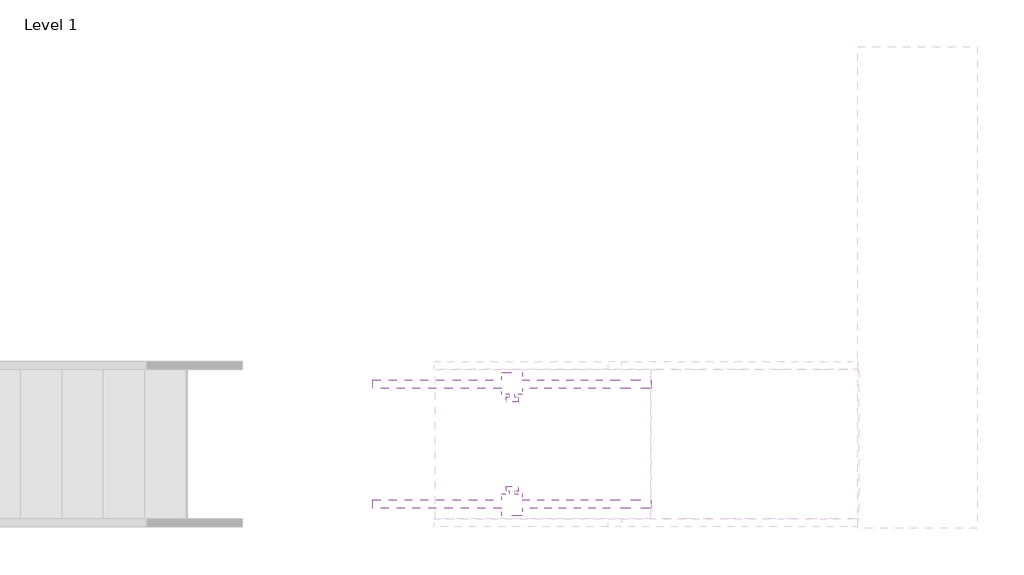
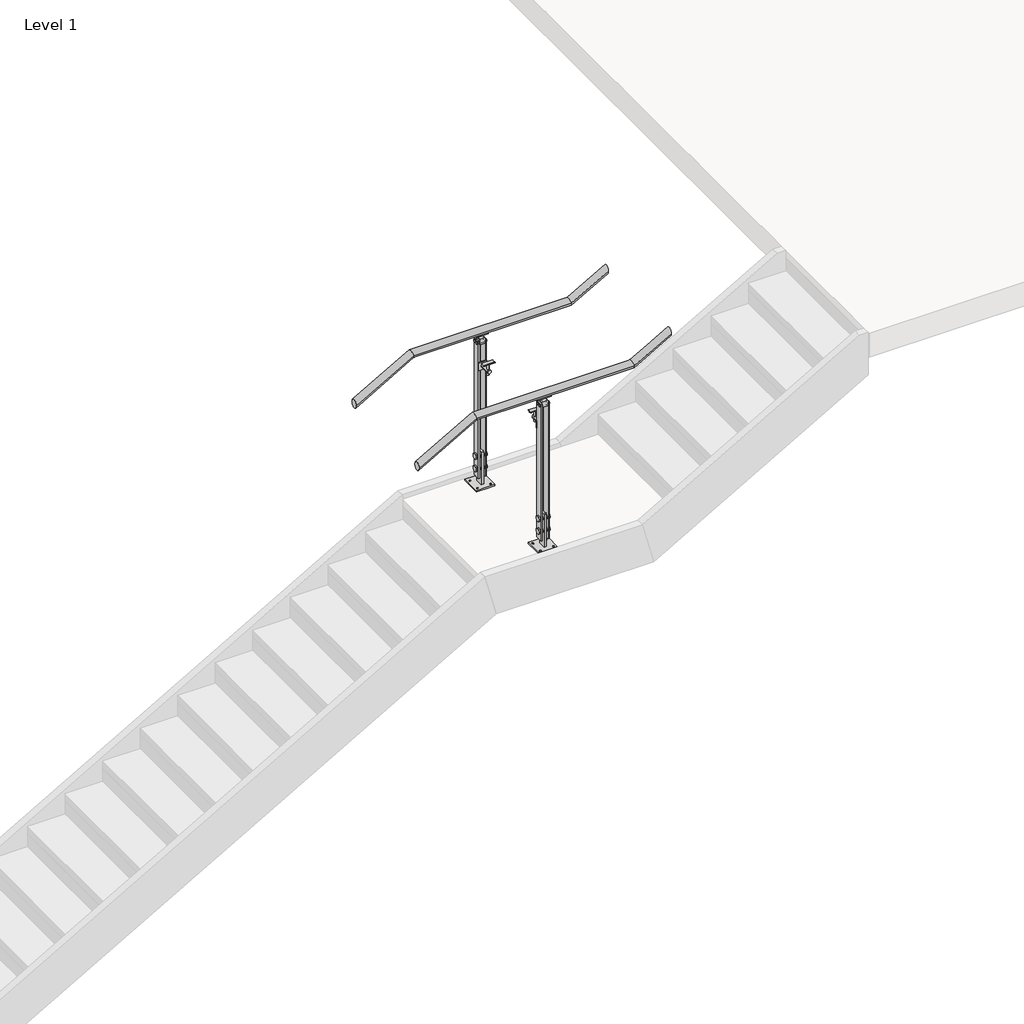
# One storey, part 26 of 36: 2 railings.
"""IFC4 building model written with IfcOpenShell, lengths in millimetres."""

from ifc_helpers import new_model, si_unit, point, frame, frame_2d, origin, place, context, project, spatial, polyline, circle_curve, ellipse_curve, trimmed, segment, composite_curve, outline, extrude, element, save
from ifc_brep_helpers import plane_surface, cylinder_surface, revolved_surface, advanced_brep

model = new_model("IFC4")

# Units and contexts
model_context = context("Model", 3, world=origin())
ifc_project = project(units=[si_unit("LENGTHUNIT", "METRE", prefix="MILLI")], contexts=[model_context])

# Site, building, storey
site = spatial("IfcSite", under=ifc_project)
building = spatial("IfcBuilding", under=site)
storey = spatial("IfcBuildingStorey", under=building, Name="Level 1", Elevation=0.0)

# Railings
placement = place(None, origin())
element("IfcRailing", 1, ObjectType="VIVA-BLADE-Perforated-Floor Mount-Stair-Landing", at=placement, inside=storey, context=model_context, shape_type="SolidModel", body=[
    advanced_brep(
    [(136575.2474271, -2328.4711813, 3047.7740933), (136575.2474271, -2277.6711813, 3047.7740933), (136962.9927638, -2328.4711813, 3269.3428571), (136962.9927638, -2277.6711813, 3269.3428571), (138029.7927638, -2328.4711813, 3269.3428571), (138029.7927638, -2277.6711813, 3269.3428571), (138280.2224271, -2328.4711813, 3412.4455219), (138280.2224271, -2277.6711813, 3412.4455219)],
    [
        (0, 1, ellipse_curve(frame((136575.2474271, -2303.0711813, 3047.7740933), z_axis=(-1.0, 0.0, 0.0), x_axis=(0.0, 0.0, -0.9999999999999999)), 29.2544781, 25.4)),
        (1, 0, ellipse_curve(frame((136575.2474271, -2303.0711813, 3047.7740933), z_axis=(-1.0, 0.0, 0.0), x_axis=(0.0, 0.0, -0.9999999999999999)), 29.2544781, 25.4)),
        (0, 2),
        (2, 3, ellipse_curve(frame((136962.9927638, -2303.0711813, 3269.3428571), z_axis=(-0.9664996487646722, 0.0, -0.2566679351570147), x_axis=(0.25666793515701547, 0.0, -0.9664996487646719)), 26.2804027, 25.4)),
        (3, 1),
        (3, 2, ellipse_curve(frame((136962.9927638, -2303.0711813, 3269.3428571), z_axis=(-0.9664996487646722, 0.0, -0.2566679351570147), x_axis=(0.25666793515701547, 0.0, -0.9664996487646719)), 26.2804027, 25.4)),
        (2, 4),
        (4, 5, ellipse_curve(frame((138029.7927638, -2303.0711813, 3269.3428571), z_axis=(-0.9664996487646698, 0.0, -0.2566679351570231), x_axis=(-0.2566679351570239, 0.0, 0.9664996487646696)), 26.2804027, 25.4)),
        (5, 3),
        (5, 4, ellipse_curve(frame((138029.7927638, -2303.0711813, 3269.3428571), z_axis=(-0.9664996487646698, 0.0, -0.2566679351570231), x_axis=(-0.2566679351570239, 0.0, 0.9664996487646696)), 26.2804027, 25.4)),
        (6, 7, ellipse_curve(frame((138280.2224271, -2303.0711813, 3412.4455219), z_axis=(1.0, 0.0, 0.0), x_axis=(0.0, 0.0, -1.0)), 29.2544781, 25.4)),
        (7, 6, ellipse_curve(frame((138280.2224271, -2303.0711813, 3412.4455219), z_axis=(1.0, 0.0, 0.0), x_axis=(0.0, 0.0, -1.0)), 29.2544781, 25.4)),
        (4, 6),
        (7, 5),
    ],
    [
        plane_surface(frame((136575.2474271, -2303.0711813, 3077.0285714), z_axis=(-1.0, 0.0, 0.0), x_axis=(0.0, 1.0, 0.0))),
        cylinder_surface(frame((136587.8493561, -2303.0711813, 3054.9751956), z_axis=(-0.868243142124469, 0.0, -0.49613893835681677), x_axis=(0.0, 1.0, 0.0)), 25.4),
        cylinder_surface(frame((136956.2474271, -2303.0711813, 3269.3428571), z_axis=(-1.0, 0.0, 0.0), x_axis=(0.0, 1.0, 0.0)), 25.4),
        plane_surface(frame((138280.2224271, -2303.0711813, 3441.7), z_axis=(1.0, 0.0, 0.0), x_axis=(0.0, 1.0, 0.0))),
        cylinder_surface(frame((138035.6493561, -2303.0711813, 3272.6894813), z_axis=(-0.8682431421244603, 0.0, -0.4961389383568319), x_axis=(0.0, 1.0, 0.0)), 25.4),
    ],
    [
        (0, [[1, 2]]),
        (1, [[-1, 3, 4, 5]]),
        (1, [[-2, -5, 6, -3]]),
        (2, [[-4, 7, 8, 9]]),
        (2, [[-6, -9, 10, -7]]),
        (3, [[11, 12]]),
        (4, [[-8, 13, -12, 14]]),
        (4, [[-10, -14, -11, -13]]),
    ],
),
    extrude(outline(composite_curve([segment(trimmed(circle_curve(frame_2d((0.0, 7.0)), 7.0), [point((0.0, 14.0))], [point((0.0, 0.0))], False, "CARTESIAN"), True, "CONTINUOUS"), segment(trimmed(circle_curve(frame_2d((0.0, 7.0)), 7.0), [point((0.0, 0.0))], [point((0.0, 14.0))], False, "CARTESIAN"), True, "CONTINUOUS")], self_intersect=False)), frame((137427.6506773, -2217.3875589, 3013.7229503), z_axis=(0.0012555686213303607, 0.0, 0.999999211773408), x_axis=(0.999999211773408, 0.0, -0.0012555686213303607)), (0.0, 0.0, 1.0), 75.97),
    extrude(outline(composite_curve([segment(trimmed(circle_curve(frame_2d((-2209.1396268, 3111.669086)), 19.05), [point((-2222.6692151, 3098.2581672))], [point((-2195.6100386, 3098.2581672))], True, "CARTESIAN"), True, "CONTINUOUS"), segment(polyline([(-2195.6100386, 3098.2581672), (-2194.583649, 3097.2407802)]), True, "CONTINUOUS"), segment(trimmed(circle_curve(frame_2d((-2195.6396268, 3096.1754583)), 1.5), [point((-2194.583649, 3097.2407802))], [point((-2194.6542254, 3095.0445366))], False, "CARTESIAN"), True, "CONTINUOUS"), segment(trimmed(circle_curve(frame_2d((-2209.1396268, 3111.669086)), 22.05), [point((-2194.6542254, 3095.0445366))], [point((-2223.6250283, 3095.0445366))], False, "CARTESIAN"), True, "CONTINUOUS"), segment(trimmed(circle_curve(frame_2d((-2222.6396268, 3096.1754583)), 1.5), [point((-2223.6250283, 3095.0445366))], [point((-2223.6956047, 3097.2407802))], False, "CARTESIAN"), True, "CONTINUOUS"), segment(polyline([(-2223.6956047, 3097.2407802), (-2222.6692151, 3098.2581672)]), True, "CONTINUOUS")], self_intersect=False)), frame((137391.2992925, 0.0, 0.0), z_axis=(1.0, 0.0, 0.0), x_axis=(0.0, 1.0, 0.0)), (0.0, 0.0, 1.0), 74.5229187),
    extrude(outline(composite_curve([segment(trimmed(circle_curve(frame_2d((3040.5995463, 137427.7105808)), 12.5), [point((3040.5995463, 137415.2105808))], [point((3040.5995463, 137440.2105808))], False, "CARTESIAN"), True, "CONTINUOUS"), segment(trimmed(circle_curve(frame_2d((3040.5995463, 137427.7105808)), 12.5), [point((3040.5995463, 137440.2105808))], [point((3040.5995463, 137415.2105808))], False, "CARTESIAN"), True, "CONTINUOUS")], self_intersect=False)), frame((0.0, -2277.6713846, 0.0), z_axis=(0.0, 1.0, 0.0), x_axis=(0.0, 0.0, 1.0)), (0.0, 0.0, 1.0), 82.061346),
    extrude(outline(polyline([(137454.8097628, -2271.3213846), (137454.8097628, -2277.6713846), (137400.6823628, -2277.6713846), (137400.6823628, -2271.3213846), (137454.8097628, -2271.3213846)])), frame((0.0, 0.0, 3013.6558249), z_axis=(0.0, 0.0, 1.0), x_axis=(1.0, 0.0, 0.0)), (0.0, 0.0, 1.0), 54.1734375),
    advanced_brep(
    [(137472.9723271, -2290.3110577, 3247.3396226), (137472.9723271, -2315.1831222, 3247.1963856), (137472.9723271, -2317.9920525, 3242.3696317), (137472.9723271, -2286.4751603, 3242.9503901), (137382.4975271, -2290.3110577, 3247.3396226), (137382.4975271, -2286.4751603, 3242.9503901), (137382.4975271, -2318.1058459, 3242.4322535), (137382.4975271, -2315.2700943, 3247.2447018)],
    [
        (0, 1, circle_curve(frame((137472.9723271, -2302.8748606, 3269.4544469), z_axis=(-1.0, 0.0, 0.0), x_axis=(0.0, 1.0, 0.0)), 25.4345159)),
        (1, 2, circle_curve(frame((137472.9723271, -2316.5147475, 3244.742217), z_axis=(1.0, 0.0, 0.0), x_axis=(0.0, 1.0, 0.0)), 2.7949225)),
        (2, 3, circle_curve(frame((137472.9723271, -2302.7413975, 3270.2170736), z_axis=(1.0, 0.0, 0.0), x_axis=(0.0, 1.0, 0.0)), 31.75)),
        (3, 0, circle_curve(frame((137472.9723271, -2288.7635, 3244.8213092), z_axis=(1.0, 0.0, 0.0), x_axis=(0.0, 1.0, 0.0)), 2.9558141)),
        (4, 5, circle_curve(frame((137382.4975271, -2288.7635, 3244.8213092), z_axis=(-1.0, 0.0, 0.0), x_axis=(0.0, 1.0, 0.0)), 2.9558141)),
        (5, 6, circle_curve(frame((137382.4975271, -2302.7413975, 3270.2170736), z_axis=(-1.0, 0.0, 0.0), x_axis=(0.0, 1.0, 0.0)), 31.75)),
        (6, 7, circle_curve(frame((137382.4975271, -2316.5147475, 3244.742217), z_axis=(-1.0, 0.0, 0.0), x_axis=(0.0, 1.0, 0.0)), 2.7949225)),
        (7, 4, circle_curve(frame((137382.4975271, -2302.8748606, 3269.4544469), z_axis=(1.0, 0.0, 0.0), x_axis=(0.0, 1.0, 0.0)), 25.4345159)),
        (0, 4),
        (7, 1),
        (6, 2),
        (5, 3),
    ],
    [
        plane_surface(frame((137472.9723271, -2277.4403447, 3269.4544469), z_axis=(1.0, 0.0, 0.0), x_axis=(0.0, 0.0, -1.0))),
        plane_surface(frame((137382.4975271, -2277.4403447, 3269.4544469), z_axis=(-1.0, 0.0, 0.0), x_axis=(0.0, 0.0, 1.0))),
        revolved_surface(polyline([(137382.4975271, -2277.4403447, 3269.4544469), (137472.9723271, -2277.4403447, 3269.4544469)]), (137382.4975271, -2302.8748606, 3269.4544469), (-1.0, 0.0, 0.0)),
        cylinder_surface(frame((137382.4975271, -2316.5147475, 3244.742217), z_axis=(1.0, 0.0, 0.0), x_axis=(0.0, 1.0, 0.0)), 2.7949225),
        cylinder_surface(frame((137382.4975271, -2302.7413975, 3270.2170736), z_axis=(1.0, 0.0, 0.0), x_axis=(0.0, 1.0, 0.0)), 31.75),
        cylinder_surface(frame((137382.4975271, -2288.7635, 3244.8213092), z_axis=(1.0, 0.0, 0.0), x_axis=(0.0, 1.0, 0.0)), 2.9558141),
    ],
    [
        (0, [[1, 2, 3, 4]]),
        (1, [[5, 6, 7, 8]]),
        (2, [[-1, 9, -8, 10]]),
        (3, [[-2, -10, -7, 11]]),
        (4, [[-3, -11, -6, 12]]),
        (5, [[-4, -12, -5, -9]]),
    ],
),
    advanced_brep(
    [(137440.4349271, -2300.5311813, 3229.6553571), (137415.0349271, -2300.5311813, 3229.6553571), (137400.6670122, -2300.5311813, 3244.023272), (137454.802842, -2300.5311813, 3244.023272), (137440.4349271, -2305.6111813, 3229.6553571), (137454.802842, -2305.6111813, 3244.023272), (137400.6670122, -2305.6111813, 3244.023272), (137415.0349271, -2305.6111813, 3229.6553571)],
    [
        (0, 1),
        (1, 2, circle_curve(frame((137400.6670122, -2300.5311813, 3229.6553571), z_axis=(0.0, -1.0, 0.0), x_axis=(-1.0, 0.0, 0.0)), 14.3679149)),
        (2, 3),
        (3, 0, circle_curve(frame((137454.802842, -2300.5311813, 3229.6553571), z_axis=(0.0, -1.0, 0.0), x_axis=(-1.0, 0.0, 0.0)), 14.3679149)),
        (4, 5, circle_curve(frame((137454.802842, -2305.6111813, 3229.6553571), z_axis=(0.0, 1.0, 0.0), x_axis=(-1.0, 0.0, 0.0)), 14.3679149)),
        (5, 6),
        (6, 7, circle_curve(frame((137400.6670122, -2305.6111813, 3229.6553571), z_axis=(0.0, 1.0, 0.0), x_axis=(-1.0, 0.0, 0.0)), 14.3679149)),
        (7, 4),
        (0, 4),
        (7, 1),
        (6, 2),
        (5, 3),
    ],
    [
        plane_surface(frame((137415.0349271, -2300.5311813, 3229.6553571), z_axis=(0.0, 1.0, 0.0), x_axis=(-1.0, 0.0, 0.0))),
        plane_surface(frame((137415.0349271, -2305.6111813, 3229.6553571), z_axis=(0.0, -1.0, 0.0), x_axis=(1.0, 0.0, 0.0))),
        plane_surface(frame((137440.4349271, -2300.5311813, 3229.6553571), z_axis=(0.0, 0.0, -1.0), x_axis=(0.0, -1.0, 0.0))),
        revolved_surface(polyline([(137386.29909729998, -2305.6111813, 3229.6553571), (137386.29909729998, -2300.5311813, 3229.6553571)]), (137400.6670122, -2305.6111813, 3229.6553571), (0.0, -1.0, 0.0)),
        plane_surface(frame((137400.6670122, -2300.5311813, 3244.023272), z_axis=(0.0, 0.0, 1.0), x_axis=(0.0, -1.0, 0.0))),
        revolved_surface(polyline([(137440.4349271, -2305.6111813, 3229.6553571), (137440.4349271, -2300.5311813, 3229.6553571)]), (137454.802842, -2305.6111813, 3229.6553571), (0.0, -1.0, 0.0)),
    ],
    [
        (0, [[1, 2, 3, 4]]),
        (1, [[5, 6, 7, 8]]),
        (2, [[-1, 9, -8, 10]]),
        (3, [[-2, -10, -7, 11]]),
        (4, [[-3, -11, -6, 12]]),
        (5, [[-4, -12, -5, -9]]),
    ],
),
    extrude(outline(polyline([(137491.2229903, -2373.441867), (137364.2229903, -2373.441867), (137364.2229903, -2239.5723754), (137491.2229903, -2239.5723754), (137491.2229903, -2373.441867)]), holes=[composite_curve([segment(trimmed(circle_curve(frame_2d((137383.2729903, -2347.5199873)), 4.7625), [point((137383.2729903, -2352.2824873))], [point((137383.2729903, -2342.7574873))], True, "CARTESIAN"), True, "CONTINUOUS"), segment(trimmed(circle_curve(frame_2d((137383.2729903, -2347.5199873)), 4.7625), [point((137383.2729903, -2342.7574873))], [point((137383.2729903, -2352.2824873))], True, "CARTESIAN"), True, "CONTINUOUS")], self_intersect=False), composite_curve([segment(trimmed(circle_curve(frame_2d((137383.2729903, -2258.6223754)), 4.7625), [point((137383.2729903, -2263.3848754))], [point((137383.2729903, -2253.8598754))], True, "CARTESIAN"), True, "CONTINUOUS"), segment(trimmed(circle_curve(frame_2d((137383.2729903, -2258.6223754)), 4.7625), [point((137383.2729903, -2253.8598754))], [point((137383.2729903, -2263.3848754))], True, "CARTESIAN"), True, "CONTINUOUS")], self_intersect=False), composite_curve([segment(trimmed(circle_curve(frame_2d((137472.1729903, -2258.6223754)), 4.7625), [point((137472.1729903, -2263.3848754))], [point((137472.1729903, -2253.8598754))], True, "CARTESIAN"), True, "CONTINUOUS"), segment(trimmed(circle_curve(frame_2d((137472.1729903, -2258.6223754)), 4.7625), [point((137472.1729903, -2253.8598754))], [point((137472.1729903, -2263.3848754))], True, "CARTESIAN"), True, "CONTINUOUS")], self_intersect=False), composite_curve([segment(trimmed(circle_curve(frame_2d((137472.1729903, -2347.5199873)), 4.7625), [point((137472.1729903, -2352.2824873))], [point((137472.1729903, -2342.7574873))], True, "CARTESIAN"), True, "CONTINUOUS"), segment(trimmed(circle_curve(frame_2d((137472.1729903, -2347.5199873)), 4.7625), [point((137472.1729903, -2342.7574873))], [point((137472.1729903, -2352.2824873))], True, "CARTESIAN"), True, "CONTINUOUS")], self_intersect=False)]), frame((0.0, 0.0, 2177.1428571), z_axis=(0.0, 0.0, 1.0), x_axis=(1.0, 0.0, 0.0)), (0.0, 0.0, 1.0), 9.525),
    extrude(outline(polyline([(137400.6600914, -2277.6713846), (137408.6849271, -2277.6713846), (137408.6849271, -2328.4737093), (137400.6600914, -2328.4737093), (137400.6600914, -2277.6713846)])), frame((0.0, 0.0, 2237.6440557), z_axis=(0.0, 0.0, 1.0), x_axis=(1.0, 0.0, 0.0)), (0.0, 0.0, 1.0), 974.5488015),
    extrude(outline(polyline([(137435.6639284, -2277.6717835), (137435.6639284, -2328.4717758), (137419.7279379, -2328.4717758), (137419.7279379, -2277.6717835), (137435.6639284, -2277.6717835)])), frame((0.0, 0.0, 2186.6678571), z_axis=(0.0, 0.0, 1.0), x_axis=(1.0, 0.0, 0.0)), (0.0, 0.0, 1.0), 231.775),
    extrude(outline(composite_curve([segment(trimmed(circle_curve(frame_2d((-2315.7736582, 3201.2845501)), 8.89), [point((-2324.6636582, 3201.2845501))], [point((-2306.8836582, 3201.2845501))], False, "CARTESIAN"), True, "CONTINUOUS"), segment(trimmed(circle_curve(frame_2d((-2315.7736582, 3201.2845501)), 8.89), [point((-2306.8836582, 3201.2845501))], [point((-2324.6636582, 3201.2845501))], False, "CARTESIAN"), True, "CONTINUOUS")], self_intersect=False)), frame((137395.9849271, 0.0, 0.0), z_axis=(1.0, 0.0, 0.0), x_axis=(0.0, 1.0, 0.0)), (0.0, 0.0, 1.0), 63.4880631),
    extrude(outline(composite_curve([segment(trimmed(circle_curve(frame_2d((-2290.3737603, 3201.2845501)), 8.89), [point((-2299.2637603, 3201.2845501))], [point((-2281.4837603, 3201.2845501))], False, "CARTESIAN"), True, "CONTINUOUS"), segment(trimmed(circle_curve(frame_2d((-2290.3737603, 3201.2845501)), 8.89), [point((-2281.4837603, 3201.2845501))], [point((-2299.2637603, 3201.2845501))], False, "CARTESIAN"), True, "CONTINUOUS")], self_intersect=False)), frame((137395.9849271, 0.0, 0.0), z_axis=(1.0, 0.0, 0.0), x_axis=(0.0, 1.0, 0.0)), (0.0, 0.0, 1.0), 63.4880631),
    extrude(outline(polyline([(3189.9551571, 137408.6849271), (3189.9551571, 137446.7849271), (3223.3053571, 137446.7849271), (3229.6553571, 137440.4349271), (3229.6553571, 137415.0349271), (3223.3053571, 137408.6849271), (3189.9551571, 137408.6849271)])), frame((0.0, -2328.4737093, 0.0), z_axis=(0.0, 1.0, 0.0), x_axis=(0.0, 0.0, 1.0)), (0.0, 0.0, 1.0), 50.8025279),
    extrude(outline(composite_curve([segment(trimmed(circle_curve(frame_2d((-2303.0709756, 2385.1476493)), 19.05), [point((-2322.1209756, 2385.1476493))], [point((-2284.0209756, 2385.1476493))], False, "CARTESIAN"), True, "CONTINUOUS"), segment(trimmed(circle_curve(frame_2d((-2303.0709756, 2385.1476493)), 19.05), [point((-2284.0209756, 2385.1476493))], [point((-2322.1209756, 2385.1476493))], False, "CARTESIAN"), True, "CONTINUOUS")], self_intersect=False)), frame((137391.2859271, 0.0, 0.0), z_axis=(1.0, 0.0, 0.0), x_axis=(0.0, 1.0, 0.0)), (0.0, 0.0, 1.0), 72.8981531),
    extrude(outline(composite_curve([segment(trimmed(circle_curve(frame_2d((-2303.0709756, 2296.2476493)), 19.05), [point((-2322.1209756, 2296.2476493))], [point((-2284.0209756, 2296.2476493))], False, "CARTESIAN"), True, "CONTINUOUS"), segment(trimmed(circle_curve(frame_2d((-2303.0709756, 2296.2476493)), 19.05), [point((-2284.0209756, 2296.2476493))], [point((-2322.1209756, 2296.2476493))], False, "CARTESIAN"), True, "CONTINUOUS")], self_intersect=False)), frame((137391.2859271, 0.0, 0.0), z_axis=(1.0, 0.0, 0.0), x_axis=(0.0, 1.0, 0.0)), (0.0, 0.0, 1.0), 72.8981531),
    extrude(outline(polyline([(137446.7848891, -2277.6713846), (137454.7858891, -2277.6713846), (137454.7858891, -2328.4737093), (137446.7848891, -2328.4737093), (137446.7848891, -2277.6713846)])), frame((0.0, 0.0, 2237.6440557), z_axis=(0.0, 0.0, 1.0), x_axis=(1.0, 0.0, 0.0)), (0.0, 0.0, 1.0), 974.5488015),
])
element("IfcRailing", 2, ObjectType="VIVA-BLADE-Perforated-Floor Mount-Stair-Landing", at=placement, inside=storey, context=model_context, shape_type="SolidModel", body=[
    advanced_brep(
    [(136575.2474271, -1591.8711813, 3047.7740933), (136575.2474271, -1541.0711813, 3047.7740933), (136962.9927638, -1591.8711813, 3269.3428571), (136962.9927638, -1541.0711813, 3269.3428571), (138029.7927638, -1591.8711813, 3269.3428571), (138029.7927638, -1541.0711813, 3269.3428571), (138280.2224271, -1591.8711813, 3412.4455219), (138280.2224271, -1541.0711813, 3412.4455219)],
    [
        (0, 1, ellipse_curve(frame((136575.2474271, -1566.4711813, 3047.7740933), z_axis=(-1.0, 0.0, 0.0), x_axis=(0.0, 0.0, -0.9999999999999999)), 29.2544781, 25.4)),
        (1, 0, ellipse_curve(frame((136575.2474271, -1566.4711813, 3047.7740933), z_axis=(-1.0, 0.0, 0.0), x_axis=(0.0, 0.0, -0.9999999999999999)), 29.2544781, 25.4)),
        (0, 2),
        (2, 3, ellipse_curve(frame((136962.9927638, -1566.4711813, 3269.3428571), z_axis=(-0.9664996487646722, 0.0, -0.2566679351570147), x_axis=(0.25666793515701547, 0.0, -0.9664996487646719)), 26.2804027, 25.4)),
        (3, 1),
        (3, 2, ellipse_curve(frame((136962.9927638, -1566.4711813, 3269.3428571), z_axis=(-0.9664996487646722, 0.0, -0.2566679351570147), x_axis=(0.25666793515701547, 0.0, -0.9664996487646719)), 26.2804027, 25.4)),
        (2, 4),
        (4, 5, ellipse_curve(frame((138029.7927638, -1566.4711813, 3269.3428571), z_axis=(-0.9664996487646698, 0.0, -0.2566679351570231), x_axis=(-0.2566679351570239, 0.0, 0.9664996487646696)), 26.2804027, 25.4)),
        (5, 3),
        (5, 4, ellipse_curve(frame((138029.7927638, -1566.4711813, 3269.3428571), z_axis=(-0.9664996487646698, 0.0, -0.2566679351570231), x_axis=(-0.2566679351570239, 0.0, 0.9664996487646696)), 26.2804027, 25.4)),
        (6, 7, ellipse_curve(frame((138280.2224271, -1566.4711813, 3412.4455219), z_axis=(1.0, 0.0, 0.0), x_axis=(0.0, 0.0, -1.0)), 29.2544781, 25.4)),
        (7, 6, ellipse_curve(frame((138280.2224271, -1566.4711813, 3412.4455219), z_axis=(1.0, 0.0, 0.0), x_axis=(0.0, 0.0, -1.0)), 29.2544781, 25.4)),
        (4, 6),
        (7, 5),
    ],
    [
        plane_surface(frame((136575.2474271, -1566.4711813, 3077.0285714), z_axis=(-1.0, 0.0, 0.0), x_axis=(0.0, 1.0, 0.0))),
        cylinder_surface(frame((136587.8493561, -1566.4711813, 3054.9751956), z_axis=(-0.868243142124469, 0.0, -0.49613893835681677), x_axis=(0.0, 1.0, 0.0)), 25.4),
        cylinder_surface(frame((136956.2474271, -1566.4711813, 3269.3428571), z_axis=(-1.0, 0.0, 0.0), x_axis=(0.0, 1.0, 0.0)), 25.4),
        plane_surface(frame((138280.2224271, -1566.4711813, 3441.7), z_axis=(1.0, 0.0, 0.0), x_axis=(0.0, 1.0, 0.0))),
        cylinder_surface(frame((138035.6493561, -1566.4711813, 3272.6894813), z_axis=(-0.8682431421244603, 0.0, -0.4961389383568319), x_axis=(0.0, 1.0, 0.0)), 25.4),
    ],
    [
        (0, [[1, 2]]),
        (1, [[-1, 3, 4, 5]]),
        (1, [[-2, -5, 6, -3]]),
        (2, [[-4, 7, 8, 9]]),
        (2, [[-6, -9, 10, -7]]),
        (3, [[11, 12]]),
        (4, [[-8, 13, -12, 14]]),
        (4, [[-10, -14, -11, -13]]),
    ],
),
    extrude(outline(composite_curve([segment(trimmed(circle_curve(frame_2d((0.0, -7.0)), 7.0), [point((0.0, -14.0))], [point((0.0, 0.0))], False, "CARTESIAN"), True, "CONTINUOUS"), segment(trimmed(circle_curve(frame_2d((0.0, -7.0)), 7.0), [point((0.0, 0.0))], [point((0.0, -14.0))], False, "CARTESIAN"), True, "CONTINUOUS")], self_intersect=False)), frame((137427.6506773, -1652.1548038, 3013.7229503), z_axis=(0.0012555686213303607, 0.0, 0.999999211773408), x_axis=(0.999999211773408, 0.0, -0.0012555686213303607)), (0.0, 0.0, 1.0), 75.97),
    extrude(outline(composite_curve([segment(polyline([(-1646.8731476, 3098.2581672), (-1645.8467579, 3097.2407802)]), True, "CONTINUOUS"), segment(trimmed(circle_curve(frame_2d((-1646.9027358, 3096.1754583)), 1.5), [point((-1645.8467579, 3097.2407802))], [point((-1645.9173343, 3095.0445366))], False, "CARTESIAN"), True, "CONTINUOUS"), segment(trimmed(circle_curve(frame_2d((-1660.4027358, 3111.669086)), 22.05), [point((-1645.9173343, 3095.0445366))], [point((-1674.8881373, 3095.0445366))], False, "CARTESIAN"), True, "CONTINUOUS"), segment(trimmed(circle_curve(frame_2d((-1673.9027358, 3096.1754583)), 1.5), [point((-1674.8881373, 3095.0445366))], [point((-1674.9587136, 3097.2407802))], False, "CARTESIAN"), True, "CONTINUOUS"), segment(polyline([(-1674.9587136, 3097.2407802), (-1673.932324, 3098.2581672)]), True, "CONTINUOUS"), segment(trimmed(circle_curve(frame_2d((-1660.4027358, 3111.669086)), 19.05), [point((-1673.932324, 3098.2581672))], [point((-1646.8731476, 3098.2581672))], True, "CARTESIAN"), True, "CONTINUOUS")], self_intersect=False)), frame((137391.2992925, 0.0, 0.0), z_axis=(1.0, 0.0, 0.0), x_axis=(0.0, 1.0, 0.0)), (0.0, 0.0, 1.0), 74.5229187),
    extrude(outline(composite_curve([segment(trimmed(circle_curve(frame_2d((3040.5995463, 137427.7105808)), 12.5), [point((3040.5995463, 137415.2105808))], [point((3040.5995463, 137440.2105808))], False, "CARTESIAN"), True, "CONTINUOUS"), segment(trimmed(circle_curve(frame_2d((3040.5995463, 137427.7105808)), 12.5), [point((3040.5995463, 137440.2105808))], [point((3040.5995463, 137415.2105808))], False, "CARTESIAN"), True, "CONTINUOUS")], self_intersect=False)), frame((0.0, -1673.932324, 0.0), z_axis=(0.0, 1.0, 0.0), x_axis=(0.0, 0.0, 1.0)), (0.0, 0.0, 1.0), 82.061346),
    extrude(outline(polyline([(137454.8097628, -1598.220978), (137400.6823628, -1598.220978), (137400.6823628, -1591.870978), (137454.8097628, -1591.870978), (137454.8097628, -1598.220978)])), frame((0.0, 0.0, 3013.6558249), z_axis=(0.0, 0.0, 1.0), x_axis=(1.0, 0.0, 0.0)), (0.0, 0.0, 1.0), 54.1734375),
    advanced_brep(
    [(137472.9723271, -1579.2313049, 3247.3396226), (137472.9723271, -1583.0672024, 3242.9503901), (137472.9723271, -1551.5503101, 3242.3696317), (137472.9723271, -1554.3592404, 3247.1963856), (137382.4975271, -1579.2313049, 3247.3396226), (137382.4975271, -1554.2722683, 3247.2447018), (137382.4975271, -1551.4365167, 3242.4322535), (137382.4975271, -1583.0672024, 3242.9503901)],
    [
        (0, 1, circle_curve(frame((137472.9723271, -1580.7788626, 3244.8213092), z_axis=(1.0, 0.0, 0.0), x_axis=(0.0, -1.0, 0.0)), 2.9558141)),
        (1, 2, circle_curve(frame((137472.9723271, -1566.8009651, 3270.2170736), z_axis=(1.0, 0.0, 0.0), x_axis=(0.0, -1.0, 0.0)), 31.75)),
        (2, 3, circle_curve(frame((137472.9723271, -1553.0276152, 3244.742217), z_axis=(1.0, 0.0, 0.0), x_axis=(0.0, -1.0, 0.0)), 2.7949225)),
        (3, 0, circle_curve(frame((137472.9723271, -1566.6675021, 3269.4544469), z_axis=(-1.0, 0.0, 0.0), x_axis=(0.0, -1.0, 0.0)), 25.4345159)),
        (4, 5, circle_curve(frame((137382.4975271, -1566.6675021, 3269.4544469), z_axis=(1.0, 0.0, 0.0), x_axis=(0.0, -1.0, 0.0)), 25.4345159)),
        (5, 6, circle_curve(frame((137382.4975271, -1553.0276152, 3244.742217), z_axis=(-1.0, 0.0, 0.0), x_axis=(0.0, -1.0, 0.0)), 2.7949225)),
        (6, 7, circle_curve(frame((137382.4975271, -1566.8009651, 3270.2170736), z_axis=(-1.0, 0.0, 0.0), x_axis=(0.0, -1.0, 0.0)), 31.75)),
        (7, 4, circle_curve(frame((137382.4975271, -1580.7788626, 3244.8213092), z_axis=(-1.0, 0.0, 0.0), x_axis=(0.0, -1.0, 0.0)), 2.9558141)),
        (3, 5),
        (4, 0),
        (2, 6),
        (1, 7),
    ],
    [
        plane_surface(frame((137472.9723271, -1592.1020179, 3269.4544469), z_axis=(1.0, 0.0, 0.0), x_axis=(0.0, 0.0, -1.0))),
        plane_surface(frame((137382.4975271, -1592.1020179, 3269.4544469), z_axis=(-1.0, 0.0, 0.0), x_axis=(0.0, 0.0, 1.0))),
        revolved_surface(polyline([(137382.4975271, -1592.102018, 3269.4544469), (137472.9723271, -1592.102018, 3269.4544469)]), (137382.4975271, -1566.6675021, 3269.4544469), (-1.0, 0.0, 0.0)),
        cylinder_surface(frame((137382.4975271, -1553.0276152, 3244.742217), z_axis=(1.0, 0.0, 0.0), x_axis=(0.0, -1.0, 0.0)), 2.7949225),
        cylinder_surface(frame((137382.4975271, -1566.8009651, 3270.2170736), z_axis=(1.0, 0.0, 0.0), x_axis=(0.0, -1.0, 0.0)), 31.75),
        cylinder_surface(frame((137382.4975271, -1580.7788626, 3244.8213092), z_axis=(1.0, 0.0, 0.0), x_axis=(0.0, -1.0, 0.0)), 2.9558141),
    ],
    [
        (0, [[1, 2, 3, 4]]),
        (1, [[5, 6, 7, 8]]),
        (2, [[9, -5, 10, -4]]),
        (3, [[11, -6, -9, -3]]),
        (4, [[12, -7, -11, -2]]),
        (5, [[-10, -8, -12, -1]]),
    ],
),
    advanced_brep(
    [(137440.4349271, -1569.0111813, 3229.6553571), (137454.802842, -1569.0111813, 3244.023272), (137400.6670122, -1569.0111813, 3244.023272), (137415.0349271, -1569.0111813, 3229.6553571), (137440.4349271, -1563.9311813, 3229.6553571), (137415.0349271, -1563.9311813, 3229.6553571), (137400.6670122, -1563.9311813, 3244.023272), (137454.802842, -1563.9311813, 3244.023272)],
    [
        (0, 1, circle_curve(frame((137454.802842, -1569.0111813, 3229.6553571), z_axis=(0.0, 1.0, 0.0), x_axis=(-1.0, 0.0, 0.0)), 14.3679149)),
        (1, 2),
        (2, 3, circle_curve(frame((137400.6670122, -1569.0111813, 3229.6553571), z_axis=(0.0, 1.0, 0.0), x_axis=(-1.0, 0.0, 0.0)), 14.3679149)),
        (3, 0),
        (4, 5),
        (5, 6, circle_curve(frame((137400.6670122, -1563.9311813, 3229.6553571), z_axis=(0.0, -1.0, 0.0), x_axis=(-1.0, 0.0, 0.0)), 14.3679149)),
        (6, 7),
        (7, 4, circle_curve(frame((137454.802842, -1563.9311813, 3229.6553571), z_axis=(0.0, -1.0, 0.0), x_axis=(-1.0, 0.0, 0.0)), 14.3679149)),
        (3, 5),
        (4, 0),
        (2, 6),
        (1, 7),
    ],
    [
        plane_surface(frame((137415.0349271, -1569.0111813, 3229.6553571), z_axis=(0.0, -1.0, 0.0), x_axis=(-1.0, 0.0, 0.0))),
        plane_surface(frame((137415.0349271, -1563.9311813, 3229.6553571), z_axis=(0.0, 1.0, 0.0), x_axis=(1.0, 0.0, 0.0))),
        plane_surface(frame((137440.4349271, -1569.0111813, 3229.6553571), z_axis=(0.0, 0.0, -1.0), x_axis=(0.0, 1.0, 0.0))),
        revolved_surface(polyline([(137386.29909729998, -1563.9311813, 3229.6553571), (137386.29909729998, -1569.0111813, 3229.6553571)]), (137400.6670122, -1563.9311813, 3229.6553571), (0.0, 1.0, 0.0)),
        plane_surface(frame((137400.6670122, -1569.0111813, 3244.023272), z_axis=(0.0, 0.0, 1.0), x_axis=(0.0, 1.0, 0.0))),
        revolved_surface(polyline([(137440.4349271, -1563.9311813, 3229.6553571), (137440.4349271, -1569.0111813, 3229.6553571)]), (137454.802842, -1563.9311813, 3229.6553571), (0.0, 1.0, 0.0)),
    ],
    [
        (0, [[1, 2, 3, 4]]),
        (1, [[5, 6, 7, 8]]),
        (2, [[9, -5, 10, -4]]),
        (3, [[11, -6, -9, -3]]),
        (4, [[12, -7, -11, -2]]),
        (5, [[-10, -8, -12, -1]]),
    ],
),
    extrude(outline(polyline([(137491.2229903, -1496.1004956), (137491.2229903, -1629.9699873), (137364.2229903, -1629.9699873), (137364.2229903, -1496.1004956), (137491.2229903, -1496.1004956)]), holes=[composite_curve([segment(trimmed(circle_curve(frame_2d((137383.2729903, -1522.0223754)), 4.7625), [point((137383.2729903, -1517.2598754))], [point((137383.2729903, -1526.7848754))], True, "CARTESIAN"), True, "CONTINUOUS"), segment(trimmed(circle_curve(frame_2d((137383.2729903, -1522.0223754)), 4.7625), [point((137383.2729903, -1526.7848754))], [point((137383.2729903, -1517.2598754))], True, "CARTESIAN"), True, "CONTINUOUS")], self_intersect=False), composite_curve([segment(trimmed(circle_curve(frame_2d((137383.2729903, -1610.9199873)), 4.7625), [point((137383.2729903, -1606.1574873))], [point((137383.2729903, -1615.6824873))], True, "CARTESIAN"), True, "CONTINUOUS"), segment(trimmed(circle_curve(frame_2d((137383.2729903, -1610.9199873)), 4.7625), [point((137383.2729903, -1615.6824873))], [point((137383.2729903, -1606.1574873))], True, "CARTESIAN"), True, "CONTINUOUS")], self_intersect=False), composite_curve([segment(trimmed(circle_curve(frame_2d((137472.1729903, -1610.9199873)), 4.7625), [point((137472.1729903, -1606.1574873))], [point((137472.1729903, -1615.6824873))], True, "CARTESIAN"), True, "CONTINUOUS"), segment(trimmed(circle_curve(frame_2d((137472.1729903, -1610.9199873)), 4.7625), [point((137472.1729903, -1615.6824873))], [point((137472.1729903, -1606.1574873))], True, "CARTESIAN"), True, "CONTINUOUS")], self_intersect=False), composite_curve([segment(trimmed(circle_curve(frame_2d((137472.1729903, -1522.0223754)), 4.7625), [point((137472.1729903, -1517.2598754))], [point((137472.1729903, -1526.7848754))], True, "CARTESIAN"), True, "CONTINUOUS"), segment(trimmed(circle_curve(frame_2d((137472.1729903, -1522.0223754)), 4.7625), [point((137472.1729903, -1526.7848754))], [point((137472.1729903, -1517.2598754))], True, "CARTESIAN"), True, "CONTINUOUS")], self_intersect=False)]), frame((0.0, 0.0, 2177.1428571), z_axis=(0.0, 0.0, 1.0), x_axis=(1.0, 0.0, 0.0)), (0.0, 0.0, 1.0), 9.525),
    extrude(outline(polyline([(137400.6600914, -1591.870978), (137400.6600914, -1541.0686534), (137408.6849271, -1541.0686534), (137408.6849271, -1591.870978), (137400.6600914, -1591.870978)])), frame((0.0, 0.0, 2237.6440557), z_axis=(0.0, 0.0, 1.0), x_axis=(1.0, 0.0, 0.0)), (0.0, 0.0, 1.0), 974.5488015),
    extrude(outline(polyline([(137435.6639284, -1591.8705791), (137419.7279379, -1591.8705791), (137419.7279379, -1541.0705869), (137435.6639284, -1541.0705869), (137435.6639284, -1591.8705791)])), frame((0.0, 0.0, 2186.6678571), z_axis=(0.0, 0.0, 1.0), x_axis=(1.0, 0.0, 0.0)), (0.0, 0.0, 1.0), 231.775),
    extrude(outline(composite_curve([segment(trimmed(circle_curve(frame_2d((-1553.7687044, 3201.2845501)), 8.89), [point((-1544.8787044, 3201.2845501))], [point((-1562.6587044, 3201.2845501))], False, "CARTESIAN"), True, "CONTINUOUS"), segment(trimmed(circle_curve(frame_2d((-1553.7687044, 3201.2845501)), 8.89), [point((-1562.6587044, 3201.2845501))], [point((-1544.8787044, 3201.2845501))], False, "CARTESIAN"), True, "CONTINUOUS")], self_intersect=False)), frame((137395.9849271, 0.0, 0.0), z_axis=(1.0, 0.0, 0.0), x_axis=(0.0, 1.0, 0.0)), (0.0, 0.0, 1.0), 63.4880631),
    extrude(outline(composite_curve([segment(trimmed(circle_curve(frame_2d((-1579.1686024, 3201.2845501)), 8.89), [point((-1570.2786024, 3201.2845501))], [point((-1588.0586024, 3201.2845501))], False, "CARTESIAN"), True, "CONTINUOUS"), segment(trimmed(circle_curve(frame_2d((-1579.1686024, 3201.2845501)), 8.89), [point((-1588.0586024, 3201.2845501))], [point((-1570.2786024, 3201.2845501))], False, "CARTESIAN"), True, "CONTINUOUS")], self_intersect=False)), frame((137395.9849271, 0.0, 0.0), z_axis=(1.0, 0.0, 0.0), x_axis=(0.0, 1.0, 0.0)), (0.0, 0.0, 1.0), 63.4880631),
    extrude(outline(polyline([(3189.9551571, 137408.6849271), (3189.9551571, 137446.7849271), (3223.3053571, 137446.7849271), (3229.6553571, 137440.4349271), (3229.6553571, 137415.0349271), (3223.3053571, 137408.6849271), (3189.9551571, 137408.6849271)])), frame((0.0, -1591.8711813, 0.0), z_axis=(0.0, 1.0, 0.0), x_axis=(0.0, 0.0, 1.0)), (0.0, 0.0, 1.0), 50.8025279),
    extrude(outline(composite_curve([segment(trimmed(circle_curve(frame_2d((-1566.471387, 2385.1476493)), 19.05), [point((-1547.421387, 2385.1476493))], [point((-1585.521387, 2385.1476493))], False, "CARTESIAN"), True, "CONTINUOUS"), segment(trimmed(circle_curve(frame_2d((-1566.471387, 2385.1476493)), 19.05), [point((-1585.521387, 2385.1476493))], [point((-1547.421387, 2385.1476493))], False, "CARTESIAN"), True, "CONTINUOUS")], self_intersect=False)), frame((137391.2859271, 0.0, 0.0), z_axis=(1.0, 0.0, 0.0), x_axis=(0.0, 1.0, 0.0)), (0.0, 0.0, 1.0), 72.8981531),
    extrude(outline(composite_curve([segment(trimmed(circle_curve(frame_2d((-1566.471387, 2296.2476493)), 19.05), [point((-1547.421387, 2296.2476493))], [point((-1585.521387, 2296.2476493))], False, "CARTESIAN"), True, "CONTINUOUS"), segment(trimmed(circle_curve(frame_2d((-1566.471387, 2296.2476493)), 19.05), [point((-1585.521387, 2296.2476493))], [point((-1547.421387, 2296.2476493))], False, "CARTESIAN"), True, "CONTINUOUS")], self_intersect=False)), frame((137391.2859271, 0.0, 0.0), z_axis=(1.0, 0.0, 0.0), x_axis=(0.0, 1.0, 0.0)), (0.0, 0.0, 1.0), 72.8981531),
    extrude(outline(polyline([(137446.7848891, -1591.870978), (137446.7848891, -1541.0686534), (137454.7858891, -1541.0686534), (137454.7858891, -1591.870978), (137446.7848891, -1591.870978)])), frame((0.0, 0.0, 2237.6440557), z_axis=(0.0, 0.0, 1.0), x_axis=(1.0, 0.0, 0.0)), (0.0, 0.0, 1.0), 974.5488015),
])

save(model, "model.ifc")
